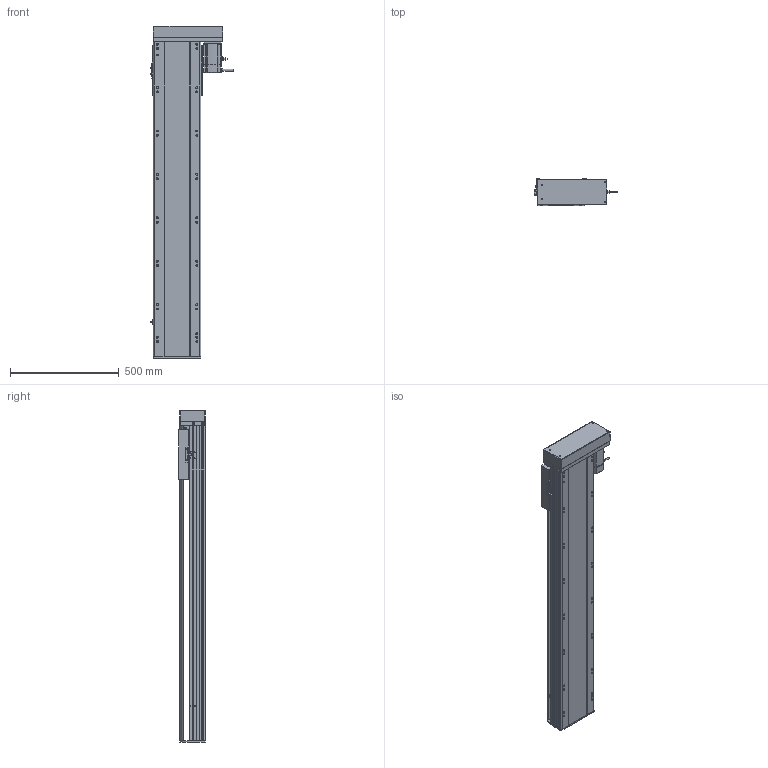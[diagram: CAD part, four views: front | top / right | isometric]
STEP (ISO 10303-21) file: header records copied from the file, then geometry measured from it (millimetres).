
FILE_DESCRIPTION (( 'STEP AP214' ), '1' );
FILE_NAME ('RTH22-XX-1150-L-M75-C4.STEP', '2025-10-24T11:01:29', ( 'Microsoft' ), ( 'Microsoft' ), 'SwSTEP 2.0', 'SolidWorks 2018', '' );
FILE_SCHEMA (( 'AUTOMOTIVE_DESIGN' ));
Length unit declared in the file: millimetre
Products named in the file (10): N_RTH22-L-018裔赽^RTH22-XX-XX-L-M75-C4; RTH22-XX-1150-L-M75-C4; N_OMRON EE-SX672 传感器^RTH22-XX-XX-L-M75-C4; N_RTH22-GY-001耜裔^RTH22-XX-XX-L-M75-C4; N_RTH22-L-011菁釱^RTH22-XX-XX-L-M75-C4; N_RTH22-L-008-P75萇儂啣^RTH22-XX-XX-L-M75-C4; N_750W萇儂^RTH22-XX-XX-L-M75-C4; N_RTH22-L-007奻裔^RTH22-XX-XX-L-M75-C4; N_RTH22-L-004-SFS25賑釱^RTH22-XX-XX-L-M75-C4; N_RTH22-GY-013外置感应片^RTH22-XX-XX-L-M75-C4
Assembly tree (11 placements, depth 2):
  RTH22-XX-1150-L-M75-C4
    N_RTH22-L-011菁釱^RTH22-XX-XX-L-M75-C4
    N_RTH22-GY-001耜裔^RTH22-XX-XX-L-M75-C4
    N_750W萇儂^RTH22-XX-XX-L-M75-C4
    N_RTH22-L-008-P75萇儂啣^RTH22-XX-XX-L-M75-C4
    N_RTH22-L-007奻裔^RTH22-XX-XX-L-M75-C4
    N_RTH22-L-018裔赽^RTH22-XX-XX-L-M75-C4
    N_OMRON EE-SX672 传感器^RTH22-XX-XX-L-M75-C4  x3
    N_RTH22-GY-013外置感应片^RTH22-XX-XX-L-M75-C4
    N_RTH22-L-004-SFS25賑釱^RTH22-XX-XX-L-M75-C4
Bounding box: 384.7 x 122 x 1529.7 mm (x, y, z)
Volume: 20652047.1 mm3; surface area: 2287745.2 mm2
Topology: 11 solids, 11 shells, 1624 faces, 4429 edges, 2851 vertices
Faces by surface type: plane 797, cylinder 482, bspline 279, cone 66
Entity records: 40993 total; most frequent: CARTESIAN_POINT 12410, ORIENTED_EDGE 5818, DIRECTION 5519, EDGE_CURVE 2909, VERTEX_POINT 1887, AXIS2_PLACEMENT_3D 1868, LINE 1783, VECTOR 1783
